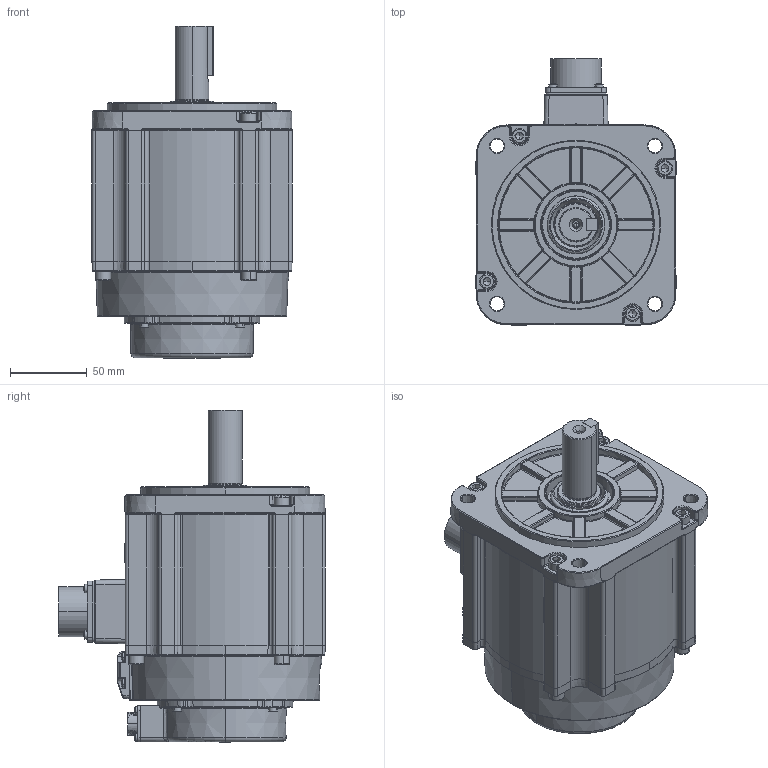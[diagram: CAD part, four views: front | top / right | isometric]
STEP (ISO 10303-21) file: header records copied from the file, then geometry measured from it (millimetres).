
FILE_DESCRIPTION (( 'STEP AP203' ), '1' );
FILE_NAME ('4031315-[][][][]_130µç»ú_DM1S-15A130[]8E.STEP', '2020-06-06T02:24:17', ( '' ), ( '' ), 'SwSTEP 2.0', 'SolidWorks 2018', '' );
FILE_SCHEMA (( 'CONFIG_CONTROL_DESIGN' ));
Length unit declared in the file: millimetre
Products named in the file (1): 4031315-[][][][]_130萇儂_DM1S-15A130[]8E
Bounding box: 130 x 173 x 215.7 mm (x, y, z)
Surface area: 151017.9 mm2 (no closed solid volume)
Topology: 0 solids, 58 shells, 1426 faces, 4379 edges, 2851 vertices
Faces by surface type: plane 450, cylinder 358, cone 216, bspline 199, torus 164, sphere 39
Entity records: 55962 total; most frequent: CARTESIAN_POINT 18832, DIRECTION 7801, ORIENTED_EDGE 7217, EDGE_CURVE 4321, AXIS2_PLACEMENT_3D 2996, VERTEX_POINT 2849, VECTOR 1809, LINE 1809
